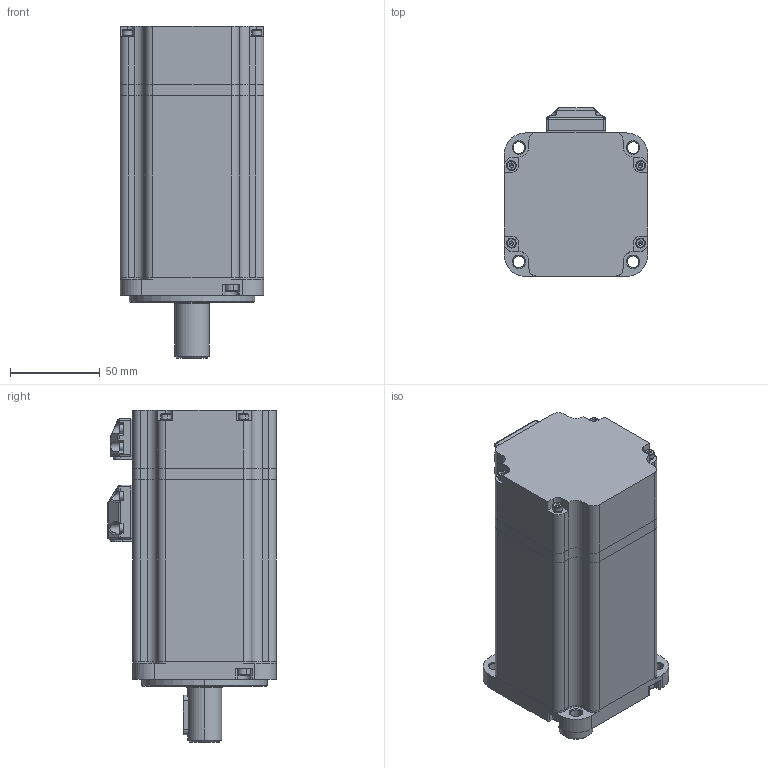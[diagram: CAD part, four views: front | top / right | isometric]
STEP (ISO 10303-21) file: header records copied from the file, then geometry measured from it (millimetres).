
FILE_DESCRIPTION (( 'STEP AP203' ), '1' );
FILE_NAME ('9.5927-SMC80S-0075-30ABK-5DSH.STEP', '2020-09-29T07:14:46', ( 'PC' ), ( 'Microsoft' ), 'SwSTEP 2.0', 'SolidWorks 2018', '' );
FILE_SCHEMA (( 'CONFIG_CONTROL_DESIGN' ));
Length unit declared in the file: millimetre
Products named in the file (33): 10105030002-孔用挡圈-GB893.1-86 42MM; 10109090018-晤鎢ん竘盄碟-L21-W33-?8.6-?6.6; 207041251-蛌赽軞傖; 10105080003-轴承-GB／T276-94 NSK深沟球轴承6004-2Z; 10105010077-内六角圆柱头螺钉-GB70-85 M4x14(发黑); 10110060022-萇埭竘盄菜-L21-W33-?5.5-?5.5; 10105030019-弹簧垫圈-GB93-87 3MM; 10105080002-轴承-GB／T276-94深沟球轴承6002-2Z; 10105010005-内六角圆柱头螺钉-GB70-85 M2.5×10(发黑); 10110060025-萇埭竘盄菜-L32-W30-?8.9; 10105010023-内六角圆柱头螺钉-GB70-85 M3×40(发黑); 10109030202-后端盖-80毛塑（毛坯同：10109030109）; 9.5927-SMC80S-0075-30ABK-5DSH; 10214020143-晤鎢ん-TS6214N341; 10105010016-内六角圆柱头螺钉-GB70-85 M3×16(发黑); 10110030065-綻詩祧-羲耀梓こ; 10109020353-机壳-80L102.1毛塑(侧面开孔); 10109010052-ヶ傷裔禱矗-SMH80-753028ENC(KEB801-0001M); 10105010013-304不锈钢内六角圆柱头组合螺钉-M3X6; 10215010033-閉肅斐价陬-Z119-S080B(24V)3.2C17; 207011205-隅赽郪璃-80L42-4X0.57-17婧-2-10P陎倛; 80ヶ傷裔И璃; 10105050002-埴芛す瑩A倰-6x6x22 GB 1096; 10105050109-埴芛す瑩A倰-5x5x10 GB 1096; 10108031265-蛌粣-80L170.4-L196.2; 10109010094-前端盖-80毛塑（毛坯同：10109010051）; 10109070256-鎢攫欶-80L32.4; 10105010084-内六角圆柱头螺钉-GB70-85 M4x25(发黑); 207041251-蛌赽郪璃; 10109100002-ﾖ盖ﾐｵ貶ｦ-ｦﾕ41.9-ｦﾕ22-0.5; 10109090019-电源引线盒-L32-W30-?11（动力最大配14AWG）; 10105030020-弹簧垫圈-GB93-87 4MM; 10105030027-轴用挡圈-GB894.1-86 15MM
Assembly tree (55 placements, depth 4):
  9.5927-SMC80S-0075-30ABK-5DSH
    207011205-隅赽郪璃-80L42-4X0.57-17婧-2-10P陎倛
      10109020353-机壳-80L102.1毛塑(侧面开孔)
    207041251-蛌赽軞傖
      207041251-蛌赽郪璃
        10108031265-蛌粣-80L170.4-L196.2
      10105030027-轴用挡圈-GB894.1-86 15MM
      10105080003-轴承-GB／T276-94 NSK深沟球轴承6004-2Z
      10105080002-轴承-GB／T276-94深沟球轴承6002-2Z
      10109030202-后端盖-80毛塑（毛坯同：10109030109）
      10110030065-綻詩祧-羲耀梓こ
      10215010033-閉肅斐价陬-Z119-S080B(24V)3.2C17
      10105050109-埴芛す瑩A倰-5x5x10 GB 1096
      10105010084-内六角圆柱头螺钉-GB70-85 M4x25(发黑)  x3
      10105030020-弹簧垫圈-GB93-87 4MM  x3
    10105030019-弹簧垫圈-GB93-87 3MM  x4
    10105010023-内六角圆柱头螺钉-GB70-85 M3×40(发黑)  x4
    10105010016-内六角圆柱头螺钉-GB70-85 M3×16(发黑)  x4
    10105010013-304不锈钢内六角圆柱头组合螺钉-M3X6
    10105050002-埴芛す瑩A倰-6x6x22 GB 1096
    10109070256-鎢攫欶-80L32.4
    10109090019-电源引线盒-L32-W30-?11（动力最大配14AWG）
    10109090018-晤鎢ん竘盄碟-L21-W33-?8.6-?6.6
    10110060022-萇埭竘盄菜-L21-W33-?5.5-?5.5
    10110060025-萇埭竘盄菜-L32-W30-?8.9
    10214020143-晤鎢ん-TS6214N341
    10109010094-前端盖-80毛塑（毛坯同：10109010051）
      10109010052-ヶ傷裔禱矗-SMH80-753028ENC(KEB801-0001M)
      80ヶ傷裔И璃
    10109100002-ﾖ盖ﾐｵ貶ｦ-ｦﾕ41.9-ｦﾕ22-0.5
    10105030002-孔用挡圈-GB893.1-86 42MM
    10105010077-内六角圆柱头螺钉-GB70-85 M4x14(发黑)  x4
    10105010005-内六角圆柱头螺钉-GB70-85 M2.5×10(发黑)  x8
Bounding box: 80 x 94 x 185 mm (x, y, z)
Volume: 425033.9 mm3; surface area: 229819.5 mm2
Topology: 63 solids, 63 shells, 2671 faces, 7147 edges, 4529 vertices
Faces by surface type: cylinder 1100, plane 878, torus 217, sphere 194, cone 144, bspline 138
Entity records: 81949 total; most frequent: CARTESIAN_POINT 21553, ORIENTED_EDGE 11926, DIRECTION 11909, EDGE_CURVE 5963, AXIS2_PLACEMENT_3D 4752, VERTEX_POINT 3875, CIRCLE 2607, EDGE_LOOP 2522
